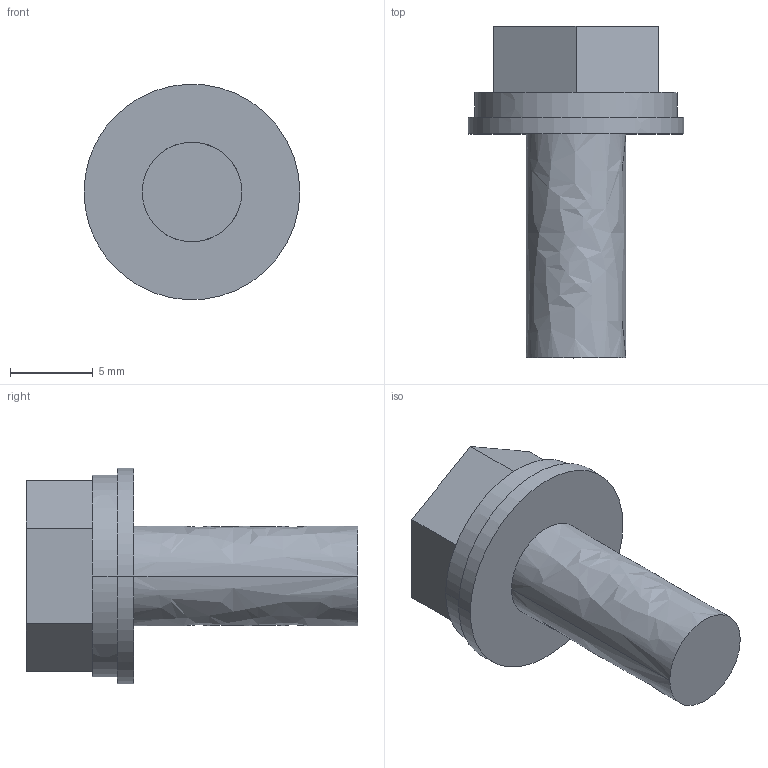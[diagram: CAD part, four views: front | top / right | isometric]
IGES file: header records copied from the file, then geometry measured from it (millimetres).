
Start section:  PTC IGES file: sw-pw-p-up-m6x16.igs
Global section: file name: sw-pw-p-up-m6x16.igs; native system: Pro/ENGINEER by Parametric Technology Corporation; preprocessor: 2006420; author: JE18792; organization: Unknown; date: 20101129.152806; units: millimetre
Bounding box: 13 x 20 x 12.98 mm (x, y, z)
Volume: 1036.2 mm3; surface area: 756.8 mm2
Topology: 1 solids, 1 shells, 17 faces, 36 edges, 24 vertices
Faces by surface type: bspline 17
